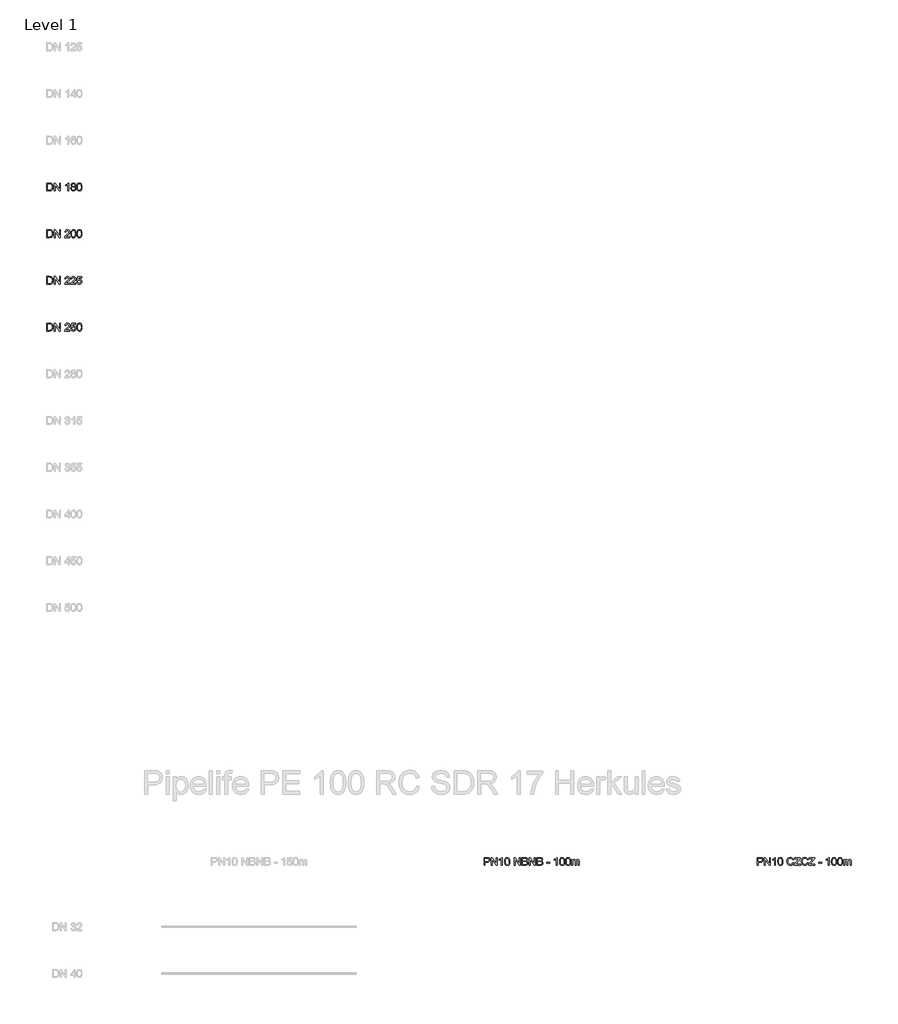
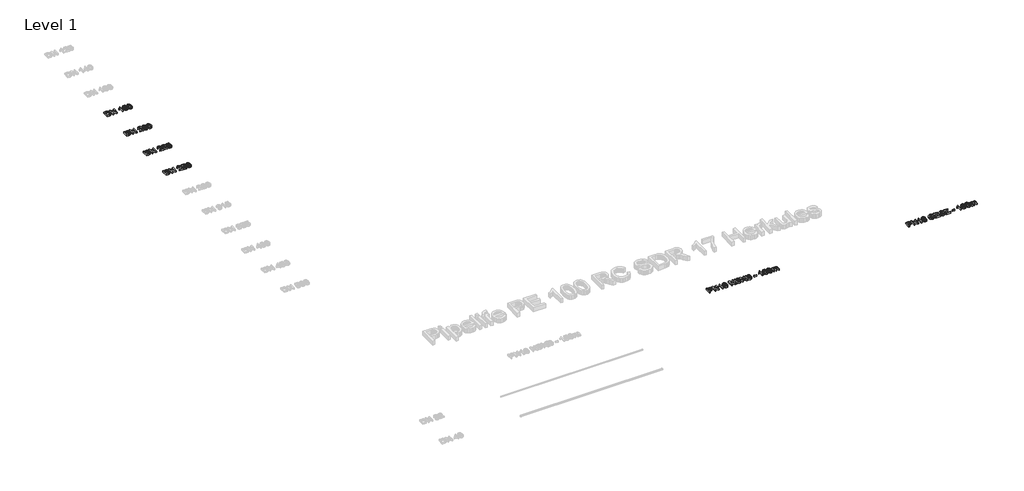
# One storey, part 7 of 17: 6 proxies.
"""IFC4 building model written with IfcOpenShell, lengths in millimetres."""

from ifc_helpers import new_model, si_unit, origin, origin_with_axes, place, context, project, spatial, polyline, outline, extrude, element, save

model = new_model("IFC4")

# Units and contexts
model_context = context("Model", 3, world=origin())
ifc_project = project(units=[si_unit("LENGTHUNIT", "METRE", prefix="MILLI")], contexts=[model_context])

# Site, building, storey
site = spatial("IfcSite", under=ifc_project)
building = spatial("IfcBuilding", under=site)
storey = spatial("IfcBuildingStorey", under=building, Name="Level 1", Elevation=0.0)

# Proxies
placement = place(None, origin())
element("IfcBuildingElementProxy", 1, Name="200mm Arial", ObjectType="200mm Arial", at=placement, inside=storey, context=model_context, shape_type="SweptSolid", body=[
    extrude(outline(polyline([(-19491.3116028, -12713.949573), (-19491.3116028, -12513.0369527), (-19422.0026349, -12513.0369527), (-19386.1464031, -12515.9309577), (-19370.1312736, -12521.5105013), (-19356.6177416, -12530.302881), (-19342.724065, -12545.606772), (-19332.8280393, -12564.6385338), (-19326.9051392, -12587.0302846), (-19324.9308391, -12612.4141423), (-19330.2773908, -12652.9547382), (-19344.0116519, -12682.2136195), (-19362.3567008, -12700.436041), (-19386.3671323, -12710.5160077), (-19418.6671715, -12713.949573), (-19491.3116028, -12713.949573)]), holes=[polyline([(-19466.1975253, -12688.8354954), (-19421.7573803, -12688.8354954), (-19389.4328156, -12685.2057264), (-19370.7934612, -12674.9540815), (-19362.0685265, -12664.0831685), (-19355.5140957, -12650.0116822), (-19351.4122114, -12632.6783089), (-19350.0449167, -12612.0217348), (-19352.7243239, -12584.6513144), (-19360.7625455, -12564.4423301), (-19372.6390025, -12550.5609162), (-19386.8331162, -12542.1732067), (-19422.4440933, -12538.1510302), (-19466.1975253, -12538.1510302), (-19466.1975253, -12688.8354954)])]), origin_with_axes(), (0.0, 0.0, 1.0), 50.0),
    extrude(outline(polyline([(-19290.3989825, -12713.949573), (-19290.3989825, -12513.0369527), (-19263.5190714, -12513.0369527), (-19158.5500754, -12672.2072292), (-19158.5500754, -12513.0369527), (-19133.4359979, -12513.0369527), (-19133.4359979, -12713.949573), (-19160.315909, -12713.949573), (-19265.284905, -12554.7302454), (-19265.284905, -12713.949573), (-19290.3989825, -12713.949573)])), origin_with_axes(), (0.0, 0.0, 1.0), 50.0),
    extrude(outline(polyline([(-18891.7130016, -12688.8354954), (-18891.7130016, -12713.949573), (-19023.5619087, -12713.949573), (-19020.8641074, -12696.6345937), (-19005.6092673, -12669.9754118), (-18974.1676195, -12640.8636832), (-18930.806595, -12599.0232377), (-18922.6764029, -12584.6022634), (-18919.9663388, -12570.5736967), (-18922.5231187, -12557.9982638), (-18930.1934583, -12547.5442838), (-18941.9840762, -12540.4993436), (-18956.9016912, -12538.1510302), (-18972.5673328, -12540.4441613), (-18984.7380955, -12547.3235546), (-18992.5923761, -12558.2496499), (-18995.3085714, -12572.6828868), (-19020.422649, -12569.5436271), (-19014.334202, -12545.2511527), (-19001.1701579, -12527.5069778), (-18981.6172299, -12516.6544589), (-18956.3621309, -12513.0369527), (-18930.9230909, -12517.0591291), (-18911.4069511, -12529.1256586), (-18898.9909337, -12547.1518763), (-18894.8522613, -12569.0531178), (-18899.3158962, -12592.8673456), (-18914.1538033, -12617.4909138), (-18950.1326624, -12651.9001431), (-18979.0236618, -12676.0577275), (-18990.3544272, -12688.8354954), (-18891.7130016, -12688.8354954)])), origin_with_axes(), (0.0, 0.0, 1.0), 50.0),
    extrude(outline(polyline([(-18866.5989241, -12615.1119436), (-18864.7533827, -12582.9529258), (-18859.2167587, -12557.3054194), (-18850.0442343, -12537.7770168), (-18837.2909918, -12523.9753106), (-18820.8650607, -12515.7715422), (-18800.6744705, -12513.0369527), (-18785.1989013, -12514.6556334), (-18771.3420128, -12519.5116758), (-18759.7537299, -12527.4150073), (-18751.0839776, -12538.1755557), (-18739.3117537, -12567.9004209), (-18734.750017, -12615.1119436), (-18736.5771642, -12647.0870203), (-18742.058606, -12672.6732131), (-18751.1759481, -12692.2200098), (-18763.9107965, -12706.0768983), (-18780.3735158, -12714.335849), (-18800.6744705, -12717.0888326), (-18826.7695667, -12712.3063667), (-18846.5861435, -12697.9589689), (-18855.341735, -12682.8298218), (-18861.5957289, -12663.9789353), (-18866.5989241, -12615.1119436)]), holes=[polyline([(-18841.4848465, -12615.0628927), (-18838.5417906, -12654.5672876), (-18829.7126227, -12677.4311536), (-18816.5669727, -12688.3388547), (-18800.6744705, -12691.9747551), (-18784.7819683, -12688.326592), (-18771.6363184, -12677.3821026), (-18762.8071505, -12654.5059739), (-18759.8640945, -12615.0628927), (-18762.7090486, -12576.4475459), (-18771.2439109, -12553.4058703), (-18784.3650354, -12541.9647402), (-18800.9687761, -12538.1510302), (-18816.6896001, -12541.5110191), (-18829.3202152, -12551.5909857), (-18838.4436887, -12576.0674012), (-18841.4848465, -12615.0628927)])]), origin_with_axes(), (0.0, 0.0, 1.0), 50.0),
    extrude(outline(polyline([(-18712.7751992, -12615.1119436), (-18710.9296578, -12582.9529258), (-18705.3930338, -12557.3054194), (-18696.2205094, -12537.7770168), (-18683.4672669, -12523.9753106), (-18667.0413358, -12515.7715422), (-18646.8507456, -12513.0369527), (-18631.3751764, -12514.6556334), (-18617.5182879, -12519.5116758), (-18605.930005, -12527.4150073), (-18597.2602527, -12538.1755557), (-18585.4880288, -12567.9004209), (-18580.9262921, -12615.1119436), (-18582.7534393, -12647.0870203), (-18588.2348811, -12672.6732131), (-18597.3522232, -12692.2200098), (-18610.0870716, -12706.0768983), (-18626.5497909, -12714.335849), (-18646.8507456, -12717.0888326), (-18672.9458418, -12712.3063667), (-18692.7624186, -12697.9589689), (-18701.5180101, -12682.8298218), (-18707.772004, -12663.9789353), (-18712.7751992, -12615.1119436)]), holes=[polyline([(-18687.6611216, -12615.0628927), (-18684.7180657, -12654.5672876), (-18675.8888978, -12677.4311536), (-18662.7432478, -12688.3388547), (-18646.8507456, -12691.9747551), (-18630.9582434, -12688.326592), (-18617.8125935, -12677.3821026), (-18608.9834256, -12654.5059739), (-18606.0403696, -12615.0628927), (-18608.8853237, -12576.4475459), (-18617.420186, -12553.4058703), (-18630.5413105, -12541.9647402), (-18647.1450512, -12538.1510302), (-18662.8658751, -12541.5110191), (-18675.4964903, -12551.5909857), (-18684.6199638, -12576.0674012), (-18687.6611216, -12615.0628927)])]), origin_with_axes(), (0.0, 0.0, 1.0), 50.0),
])
element("IfcBuildingElementProxy", 2, Name="200mm Arial", ObjectType="200mm Arial", at=placement, inside=storey, context=model_context, shape_type="SweptSolid", body=[
    extrude(outline(polyline([(-19491.3116028, -15113.949573), (-19491.3116028, -14913.0369527), (-19422.0026349, -14913.0369527), (-19386.1464031, -14915.9309577), (-19370.1312736, -14921.5105013), (-19356.6177416, -14930.302881), (-19342.724065, -14945.606772), (-19332.8280393, -14964.6385338), (-19326.9051392, -14987.0302846), (-19324.9308391, -15012.4141423), (-19330.2773908, -15052.9547382), (-19344.0116519, -15082.2136195), (-19362.3567008, -15100.436041), (-19386.3671323, -15110.5160077), (-19418.6671715, -15113.949573), (-19491.3116028, -15113.949573)]), holes=[polyline([(-19466.1975253, -15088.8354954), (-19421.7573803, -15088.8354954), (-19389.4328156, -15085.2057264), (-19370.7934612, -15074.9540815), (-19362.0685265, -15064.0831685), (-19355.5140957, -15050.0116822), (-19351.4122114, -15032.6783089), (-19350.0449167, -15012.0217348), (-19352.7243239, -14984.6513144), (-19360.7625455, -14964.4423301), (-19372.6390025, -14950.5609162), (-19386.8331162, -14942.1732067), (-19422.4440933, -14938.1510302), (-19466.1975253, -14938.1510302), (-19466.1975253, -15088.8354954)])]), origin_with_axes(), (0.0, 0.0, 1.0), 50.0),
    extrude(outline(polyline([(-19290.3989825, -15113.949573), (-19290.3989825, -14913.0369527), (-19263.5190714, -14913.0369527), (-19158.5500754, -15072.2072292), (-19158.5500754, -14913.0369527), (-19133.4359979, -14913.0369527), (-19133.4359979, -15113.949573), (-19160.315909, -15113.949573), (-19265.284905, -14954.7302454), (-19265.284905, -15113.949573), (-19290.3989825, -15113.949573)])), origin_with_axes(), (0.0, 0.0, 1.0), 50.0),
    extrude(outline(polyline([(-18891.7130016, -15088.8354954), (-18891.7130016, -15113.949573), (-19023.5619087, -15113.949573), (-19020.8641074, -15096.6345937), (-19005.6092673, -15069.9754118), (-18974.1676195, -15040.8636832), (-18930.806595, -14999.0232377), (-18922.6764029, -14984.6022634), (-18919.9663388, -14970.5736967), (-18922.5231187, -14957.9982638), (-18930.1934583, -14947.5442838), (-18941.9840762, -14940.4993436), (-18956.9016912, -14938.1510302), (-18972.5673328, -14940.4441613), (-18984.7380955, -14947.3235546), (-18992.5923761, -14958.2496499), (-18995.3085714, -14972.6828868), (-19020.422649, -14969.5436271), (-19014.334202, -14945.2511527), (-19001.1701579, -14927.5069778), (-18981.6172299, -14916.6544589), (-18956.3621309, -14913.0369527), (-18930.9230909, -14917.0591291), (-18911.4069511, -14929.1256586), (-18898.9909337, -14947.1518763), (-18894.8522613, -14969.0531178), (-18899.3158962, -14992.8673456), (-18914.1538033, -15017.4909138), (-18950.1326624, -15051.9001431), (-18979.0236618, -15076.0577275), (-18990.3544272, -15088.8354954), (-18891.7130016, -15088.8354954)])), origin_with_axes(), (0.0, 0.0, 1.0), 50.0),
    extrude(outline(polyline([(-18866.5989241, -15060.5821582), (-18841.4848465, -15057.4428985), (-18836.8740589, -15072.5199289), (-18828.8297059, -15083.3172655), (-18817.3885758, -15089.8103827), (-18802.5874569, -15091.9747551), (-18784.5857646, -15088.9642541), (-18771.0967581, -15079.9327511), (-18762.6722604, -15065.9225785), (-18759.8640945, -15047.9760685), (-18762.4944508, -15031.0780222), (-18770.3855196, -15018.1531014), (-18783.5986146, -15009.9493329), (-18802.1950494, -15007.2147434), (-18824.2434437, -15011.5802764), (-18838.3455868, -15022.9110419), (-18863.4596644, -15019.7717822), (-18841.4848465, -14916.1762123), (-18744.1677961, -14916.1762123), (-18744.1677961, -14941.2902899), (-18821.1777604, -14941.2902899), (-18831.9199147, -14996.619742), (-18813.979536, -14985.7304349), (-18795.1807661, -14982.1006659), (-18771.7160261, -14986.601089), (-18752.2366745, -15000.1023582), (-18739.1216814, -15020.6792244), (-18734.750017, -15046.4064386), (-18738.6863543, -15071.5205162), (-18750.4953664, -15093.0048247), (-18760.9309523, -15103.5415782), (-18773.1078464, -15111.0678307), (-18787.0260485, -15115.5835821), (-18802.6855588, -15117.0888326), (-18827.3520466, -15113.2199403), (-18847.0030765, -15101.6132634), (-18860.4736888, -15083.6177025), (-18866.5989241, -15060.5821582)])), origin_with_axes(), (0.0, 0.0, 1.0), 50.0),
    extrude(outline(polyline([(-18712.7751992, -15015.1119436), (-18710.9296578, -14982.9529258), (-18705.3930338, -14957.3054194), (-18696.2205094, -14937.7770168), (-18683.4672669, -14923.9753106), (-18667.0413358, -14915.7715422), (-18646.8507456, -14913.0369527), (-18631.3751764, -14914.6556334), (-18617.5182879, -14919.5116758), (-18605.930005, -14927.4150073), (-18597.2602527, -14938.1755557), (-18585.4880288, -14967.9004209), (-18580.9262921, -15015.1119436), (-18582.7534393, -15047.0870203), (-18588.2348811, -15072.6732131), (-18597.3522232, -15092.2200098), (-18610.0870716, -15106.0768983), (-18626.5497909, -15114.335849), (-18646.8507456, -15117.0888326), (-18672.9458418, -15112.3063667), (-18692.7624186, -15097.9589689), (-18701.5180101, -15082.8298218), (-18707.772004, -15063.9789353), (-18712.7751992, -15015.1119436)]), holes=[polyline([(-18687.6611216, -15015.0628927), (-18684.7180657, -15054.5672876), (-18675.8888978, -15077.4311536), (-18662.7432478, -15088.3388547), (-18646.8507456, -15091.9747551), (-18630.9582434, -15088.326592), (-18617.8125935, -15077.3821026), (-18608.9834256, -15054.5059739), (-18606.0403696, -15015.0628927), (-18608.8853237, -14976.4475459), (-18617.420186, -14953.4058703), (-18630.5413105, -14941.9647402), (-18647.1450512, -14938.1510302), (-18662.8658751, -14941.5110191), (-18675.4964903, -14951.5909857), (-18684.6199638, -14976.0674012), (-18687.6611216, -15015.0628927)])]), origin_with_axes(), (0.0, 0.0, 1.0), 50.0),
])
element("IfcBuildingElementProxy", 3, Name="200mm Arial", ObjectType="200mm Arial", at=placement, inside=storey, context=model_context, shape_type="SweptSolid", body=[
    extrude(outline(polyline([(-19491.3116028, -11513.949573), (-19491.3116028, -11313.0369527), (-19422.0026349, -11313.0369527), (-19386.1464031, -11315.9309577), (-19370.1312736, -11321.5105013), (-19356.6177416, -11330.302881), (-19342.724065, -11345.606772), (-19332.8280393, -11364.6385338), (-19326.9051392, -11387.0302846), (-19324.9308391, -11412.4141423), (-19330.2773908, -11452.9547382), (-19344.0116519, -11482.2136195), (-19362.3567008, -11500.436041), (-19386.3671323, -11510.5160077), (-19418.6671715, -11513.949573), (-19491.3116028, -11513.949573)]), holes=[polyline([(-19466.1975253, -11488.8354954), (-19421.7573803, -11488.8354954), (-19389.4328156, -11485.2057264), (-19370.7934612, -11474.9540815), (-19362.0685265, -11464.0831685), (-19355.5140957, -11450.0116822), (-19351.4122114, -11432.6783089), (-19350.0449167, -11412.0217348), (-19352.7243239, -11384.6513144), (-19360.7625455, -11364.4423301), (-19372.6390025, -11350.5609162), (-19386.8331162, -11342.1732067), (-19422.4440933, -11338.1510302), (-19466.1975253, -11338.1510302), (-19466.1975253, -11488.8354954)])]), origin_with_axes(), (0.0, 0.0, 1.0), 50.0),
    extrude(outline(polyline([(-19290.3989825, -11513.949573), (-19290.3989825, -11313.0369527), (-19263.5190714, -11313.0369527), (-19158.5500754, -11472.2072292), (-19158.5500754, -11313.0369527), (-19133.4359979, -11313.0369527), (-19133.4359979, -11513.949573), (-19160.315909, -11513.949573), (-19265.284905, -11354.7302454), (-19265.284905, -11513.949573), (-19290.3989825, -11513.949573)])), origin_with_axes(), (0.0, 0.0, 1.0), 50.0),
    extrude(outline(polyline([(-18926.2448582, -11513.949573), (-18951.3589358, -11513.949573), (-18951.3589358, -11357.3789958), (-18975.1486381, -11374.3260931), (-19001.5870908, -11387.0057592), (-19001.5870908, -11363.2651077), (-18964.7743658, -11339.769711), (-18951.3037535, -11326.1948653), (-18942.431666, -11313.0369527), (-18926.2448582, -11313.0369527), (-18926.2448582, -11513.949573)])), origin_with_axes(), (0.0, 0.0, 1.0), 50.0),
    extrude(outline(polyline([(-18830.0069283, -11403.2906688), (-18843.4530152, -11396.6687929), (-18852.8891884, -11387.6924722), (-18858.4626006, -11376.5456478), (-18860.3204047, -11363.4122605), (-18856.2737027, -11343.7796247), (-18844.1335969, -11327.5560287), (-18825.2612505, -11316.6667217), (-18801.0178271, -11313.0369527), (-18776.6272508, -11316.7525608), (-18757.5096498, -11327.8993853), (-18745.1488147, -11344.3804986), (-18741.0285364, -11364.0989736), (-18742.861815, -11376.8092965), (-18748.3616508, -11387.7660486), (-18757.5893575, -11396.687187), (-18770.6062488, -11403.2906688), (-18755.1490736, -11411.255314), (-18743.8980159, -11422.9846183), (-18737.0370167, -11437.9144959), (-18734.750017, -11455.4808612), (-18739.2872283, -11479.4912927), (-18752.8988621, -11499.332395), (-18773.9171868, -11512.6497232), (-18800.6744705, -11517.0888326), (-18827.4317543, -11512.6313291), (-18848.450079, -11499.2588186), (-18862.0617128, -11479.227644), (-18866.5989241, -11454.7941481), (-18864.2199538, -11436.5472012), (-18857.0830431, -11421.5376158), (-18845.5560739, -11410.2804267), (-18830.0069283, -11403.2906688)]), holes=[polyline([(-18835.2063271, -11364.1480245), (-18832.9806411, -11375.110908), (-18826.3035829, -11383.8664995), (-18815.3713562, -11389.6054586), (-18800.3801649, -11391.518445), (-18785.7384615, -11389.6177213), (-18774.9717818, -11383.9155504), (-18768.3499059, -11375.4542645), (-18766.1426139, -11365.276196), (-18768.4234823, -11354.7118513), (-18775.2660874, -11345.974654), (-18786.1799199, -11340.1069361), (-18800.6744705, -11338.1510302), (-18815.2609916, -11340.0640166), (-18826.1564301, -11345.8029757), (-18832.9438529, -11354.2152106), (-18835.2063271, -11364.1480245)]), polyline([(-18841.4848465, -11453.9112313), (-18837.2909918, -11472.8203659), (-18831.4845876, -11480.9321639), (-18822.4530846, -11486.97156), (-18800.4782668, -11491.9747551), (-18783.3840168, -11489.3443988), (-18770.5571979, -11481.45333), (-18762.5373704, -11469.5032966), (-18759.8640945, -11454.6960463), (-18762.6232095, -11439.6374099), (-18770.9005544, -11427.4237277), (-18784.0216789, -11419.3303238), (-18801.3121327, -11416.6325225), (-18818.1672594, -11419.2935356), (-18830.8653196, -11427.2765749), (-18838.8299648, -11439.2572652), (-18841.4848465, -11453.9112313)])]), origin_with_axes(), (0.0, 0.0, 1.0), 50.0),
    extrude(outline(polyline([(-18712.7751992, -11415.1119436), (-18710.9296578, -11382.9529258), (-18705.3930338, -11357.3054194), (-18696.2205094, -11337.7770168), (-18683.4672669, -11323.9753106), (-18667.0413358, -11315.7715422), (-18646.8507456, -11313.0369527), (-18631.3751764, -11314.6556334), (-18617.5182879, -11319.5116758), (-18605.930005, -11327.4150073), (-18597.2602527, -11338.1755557), (-18585.4880288, -11367.9004209), (-18580.9262921, -11415.1119436), (-18582.7534393, -11447.0870203), (-18588.2348811, -11472.6732131), (-18597.3522232, -11492.2200098), (-18610.0870716, -11506.0768983), (-18626.5497909, -11514.335849), (-18646.8507456, -11517.0888326), (-18672.9458418, -11512.3063667), (-18692.7624186, -11497.9589689), (-18701.5180101, -11482.8298218), (-18707.772004, -11463.9789353), (-18712.7751992, -11415.1119436)]), holes=[polyline([(-18687.6611216, -11415.0628927), (-18684.7180657, -11454.5672876), (-18675.8888978, -11477.4311536), (-18662.7432478, -11488.3388547), (-18646.8507456, -11491.9747551), (-18630.9582434, -11488.326592), (-18617.8125935, -11477.3821026), (-18608.9834256, -11454.5059739), (-18606.0403696, -11415.0628927), (-18608.8853237, -11376.4475459), (-18617.420186, -11353.4058703), (-18630.5413105, -11341.9647402), (-18647.1450512, -11338.1510302), (-18662.8658751, -11341.5110191), (-18675.4964903, -11351.5909857), (-18684.6199638, -11376.0674012), (-18687.6611216, -11415.0628927)])]), origin_with_axes(), (0.0, 0.0, 1.0), 50.0),
])
element("IfcBuildingElementProxy", 4, Name="200mm Arial", ObjectType="200mm Arial", at=placement, inside=storey, context=model_context, shape_type="SweptSolid", body=[
    extrude(outline(polyline([(-19491.3116028, -13913.949573), (-19491.3116028, -13713.0369527), (-19422.0026349, -13713.0369527), (-19386.1464031, -13715.9309577), (-19370.1312736, -13721.5105013), (-19356.6177416, -13730.302881), (-19342.724065, -13745.606772), (-19332.8280393, -13764.6385338), (-19326.9051392, -13787.0302846), (-19324.9308391, -13812.4141423), (-19330.2773908, -13852.9547382), (-19344.0116519, -13882.2136195), (-19362.3567008, -13900.436041), (-19386.3671323, -13910.5160077), (-19418.6671715, -13913.949573), (-19491.3116028, -13913.949573)]), holes=[polyline([(-19466.1975253, -13888.8354954), (-19421.7573803, -13888.8354954), (-19389.4328156, -13885.2057264), (-19370.7934612, -13874.9540815), (-19362.0685265, -13864.0831685), (-19355.5140957, -13850.0116822), (-19351.4122114, -13832.6783089), (-19350.0449167, -13812.0217348), (-19352.7243239, -13784.6513144), (-19360.7625455, -13764.4423301), (-19372.6390025, -13750.5609162), (-19386.8331162, -13742.1732067), (-19422.4440933, -13738.1510302), (-19466.1975253, -13738.1510302), (-19466.1975253, -13888.8354954)])]), origin_with_axes(), (0.0, 0.0, 1.0), 50.0),
    extrude(outline(polyline([(-19290.3989825, -13913.949573), (-19290.3989825, -13713.0369527), (-19263.5190714, -13713.0369527), (-19158.5500754, -13872.2072292), (-19158.5500754, -13713.0369527), (-19133.4359979, -13713.0369527), (-19133.4359979, -13913.949573), (-19160.315909, -13913.949573), (-19265.284905, -13754.7302454), (-19265.284905, -13913.949573), (-19290.3989825, -13913.949573)])), origin_with_axes(), (0.0, 0.0, 1.0), 50.0),
    extrude(outline(polyline([(-18891.7130016, -13888.8354954), (-18891.7130016, -13913.949573), (-19023.5619087, -13913.949573), (-19020.8641074, -13896.6345937), (-19005.6092673, -13869.9754118), (-18974.1676195, -13840.8636832), (-18930.806595, -13799.0232377), (-18922.6764029, -13784.6022634), (-18919.9663388, -13770.5736967), (-18922.5231187, -13757.9982638), (-18930.1934583, -13747.5442838), (-18941.9840762, -13740.4993436), (-18956.9016912, -13738.1510302), (-18972.5673328, -13740.4441613), (-18984.7380955, -13747.3235546), (-18992.5923761, -13758.2496499), (-18995.3085714, -13772.6828868), (-19020.422649, -13769.5436271), (-19014.334202, -13745.2511527), (-19001.1701579, -13727.5069778), (-18981.6172299, -13716.6544589), (-18956.3621309, -13713.0369527), (-18930.9230909, -13717.0591291), (-18911.4069511, -13729.1256586), (-18898.9909337, -13747.1518763), (-18894.8522613, -13769.0531178), (-18899.3158962, -13792.8673456), (-18914.1538033, -13817.4909138), (-18950.1326624, -13851.9001431), (-18979.0236618, -13876.0577275), (-18990.3544272, -13888.8354954), (-18891.7130016, -13888.8354954)])), origin_with_axes(), (0.0, 0.0, 1.0), 50.0),
    extrude(outline(polyline([(-18737.8892767, -13888.8354954), (-18737.8892767, -13913.949573), (-18869.7381838, -13913.949573), (-18867.0403825, -13896.6345937), (-18851.7855424, -13869.9754118), (-18820.3438945, -13840.8636832), (-18776.98287, -13799.0232377), (-18768.852678, -13784.6022634), (-18766.1426139, -13770.5736967), (-18768.6993938, -13757.9982638), (-18776.3697334, -13747.5442838), (-18788.1603513, -13740.4993436), (-18803.0779662, -13738.1510302), (-18818.7436079, -13740.4441613), (-18830.9143705, -13747.3235546), (-18838.7686511, -13758.2496499), (-18841.4848465, -13772.6828868), (-18866.5989241, -13769.5436271), (-18860.510477, -13745.2511527), (-18847.346433, -13727.5069778), (-18827.7935049, -13716.6544589), (-18802.538406, -13713.0369527), (-18777.099366, -13717.0591291), (-18757.5832262, -13729.1256586), (-18745.1672088, -13747.1518763), (-18741.0285364, -13769.0531178), (-18745.4921713, -13792.8673456), (-18760.3300784, -13817.4909138), (-18796.3089375, -13851.9001431), (-18825.1999369, -13876.0577275), (-18836.5307023, -13888.8354954), (-18737.8892767, -13888.8354954)])), origin_with_axes(), (0.0, 0.0, 1.0), 50.0),
    extrude(outline(polyline([(-18712.7751992, -13860.5821582), (-18687.6611216, -13857.4428985), (-18683.0503339, -13872.5199289), (-18675.005981, -13883.3172655), (-18663.5648509, -13889.8103827), (-18648.763732, -13891.9747551), (-18630.7620397, -13888.9642541), (-18617.2730332, -13879.9327511), (-18608.8485355, -13865.9225785), (-18606.0403696, -13847.9760685), (-18608.6707259, -13831.0780222), (-18616.5617947, -13818.1531014), (-18629.7748897, -13809.9493329), (-18648.3713245, -13807.2147434), (-18670.4197188, -13811.5802764), (-18684.5218619, -13822.9110419), (-18709.6359395, -13819.7717822), (-18687.6611216, -13716.1762123), (-18590.3440712, -13716.1762123), (-18590.3440712, -13741.2902899), (-18667.3540355, -13741.2902899), (-18678.0961897, -13796.619742), (-18660.1558111, -13785.7304349), (-18641.3570412, -13782.1006659), (-18617.8923012, -13786.601089), (-18598.4129496, -13800.1023582), (-18585.2979565, -13820.6792244), (-18580.9262921, -13846.4064386), (-18584.8626294, -13871.5205162), (-18596.6716415, -13893.0048247), (-18607.1072274, -13903.5415782), (-18619.2841214, -13911.0678307), (-18633.2023236, -13915.5835821), (-18648.8618339, -13917.0888326), (-18673.5283216, -13913.2199403), (-18693.1793515, -13901.6132634), (-18706.6499639, -13883.6177025), (-18712.7751992, -13860.5821582)])), origin_with_axes(), (0.0, 0.0, 1.0), 50.0),
])
element("IfcBuildingElementProxy", 5, Name="200mm Arial", ObjectType="200mm Arial", at=placement, inside=storey, context=model_context, shape_type="SweptSolid", body=[
    extrude(outline(polyline([(-1239.7124769, -28838.0508707), (-1239.7124769, -28637.1382504), (-1165.253161, -28637.1382504), (-1135.2339902, -28639.0512367), (-1110.8311512, -28648.4444903), (-1101.9590638, -28656.7708862), (-1095.0122254, -28667.8686597), (-1090.5240651, -28680.9591274), (-1089.0280116, -28695.2636056), (-1093.0685822, -28718.9429434), (-1105.190294, -28738.673681), (-1114.8977801, -28746.4421225), (-1127.8579562, -28751.9910093), (-1163.5363784, -28756.4301187), (-1214.5983993, -28756.4301187), (-1214.5983993, -28838.0508707), (-1239.7124769, -28838.0508707)]), holes=[polyline([(-1214.5983993, -28731.3160411), (-1162.0648504, -28731.3160411), (-1139.795727, -28729.0106473), (-1125.0804472, -28722.0944658), (-1116.8766787, -28710.9966923), (-1114.1420892, -28696.1465224), (-1115.7546386, -28684.8648079), (-1120.5922868, -28675.3489269), (-1128.05416, -28668.1874908), (-1137.5393841, -28663.9691105), (-1162.6534616, -28662.2523279), (-1214.5983993, -28662.2523279), (-1214.5983993, -28731.3160411)])]), origin_with_axes(), (0.0, 0.0, 1.0), 50.0),
    extrude(outline(polyline([(-1054.496155, -28838.0508707), (-1054.496155, -28637.1382504), (-1027.6162439, -28637.1382504), (-922.6472479, -28796.3085269), (-922.6472479, -28637.1382504), (-897.5331704, -28637.1382504), (-897.5331704, -28838.0508707), (-924.4130815, -28838.0508707), (-1029.3820775, -28678.8315431), (-1029.3820775, -28838.0508707), (-1054.496155, -28838.0508707)])), origin_with_axes(), (0.0, 0.0, 1.0), 50.0),
    extrude(outline(polyline([(-768.823523, -28838.0508707), (-793.9376006, -28838.0508707), (-793.9376006, -28681.4802935), (-817.7273029, -28698.4273908), (-844.1657556, -28711.1070569), (-844.1657556, -28687.3664054), (-807.3530307, -28663.8710087), (-793.8824183, -28650.2961631), (-785.0103308, -28637.1382504), (-768.823523, -28637.1382504), (-768.823523, -28838.0508707)])), origin_with_axes(), (0.0, 0.0, 1.0), 50.0),
    extrude(outline(polyline([(-709.1775889, -28739.2132413), (-707.3320475, -28707.0542235), (-701.7954235, -28681.4067171), (-692.6228991, -28661.8783145), (-679.8696566, -28648.0766083), (-663.4437255, -28639.8728399), (-643.2531353, -28637.1382504), (-627.7775661, -28638.7569311), (-613.9206776, -28643.6129735), (-602.3323947, -28651.516305), (-593.6626424, -28662.2768534), (-581.8904185, -28692.0017186), (-577.3286818, -28739.2132413), (-579.1558291, -28771.188318), (-584.6372708, -28796.7745108), (-593.7546129, -28816.3213075), (-606.4894613, -28830.178196), (-622.9521806, -28838.4371468), (-643.2531353, -28841.1901304), (-669.3482315, -28836.4076644), (-689.1648083, -28822.0602666), (-697.9203998, -28806.9311195), (-704.1743937, -28788.080233), (-709.1775889, -28739.2132413)]), holes=[polyline([(-684.0635113, -28739.1641904), (-681.1204554, -28778.6685853), (-672.2912875, -28801.5324513), (-659.1456375, -28812.4401524), (-643.2531353, -28816.0760528), (-627.3606332, -28812.4278897), (-614.2149832, -28801.4834003), (-605.3858153, -28778.6072716), (-602.4427593, -28739.1641904), (-605.2877134, -28700.5488436), (-613.8225757, -28677.507168), (-626.9437002, -28666.0660379), (-643.5474409, -28662.2523279), (-659.2682649, -28665.6123168), (-671.89888, -28675.6922835), (-681.0223535, -28700.1686989), (-684.0635113, -28739.1641904)])]), origin_with_axes(), (0.0, 0.0, 1.0), 50.0),
    extrude(outline(polyline([(-326.1879064, -28766.6327127), (-301.0738289, -28773.1074358), (-312.6621117, -28802.3724485), (-330.847745, -28823.7525238), (-354.7355493, -28836.8307287), (-383.4303449, -28841.1901304), (-412.5604675, -28837.8914551), (-435.6941137, -28827.9954295), (-453.4260258, -28811.8454099), (-466.3509466, -28789.7847529), (-474.2420154, -28763.8490722), (-476.8723717, -28736.0739816), (-473.8986589, -28706.778312), (-464.9775205, -28681.4802935), (-450.5749404, -28660.983135), (-431.1569024, -28646.0900456), (-408.1274895, -28637.0217544), (-382.8907846, -28633.9989907), (-355.3548173, -28637.9108025), (-332.5890532, -28649.6462382), (-315.3047307, -28668.4817963), (-304.2130886, -28693.6939758), (-329.3271661, -28699.6781895), (-338.0337067, -28681.3637975), (-349.9285579, -28668.8006274), (-365.1588725, -28661.534958), (-383.8718033, -28659.1130682), (-405.4419509, -28661.7986068), (-423.1616004, -28669.8552225), (-436.6076873, -28682.4367867), (-445.3571474, -28698.6971709), (-450.1580074, -28717.0790079), (-451.7582941, -28736.0249307), (-449.8637018, -28759.2260218), (-444.179925, -28779.2878533), (-434.4923658, -28795.4440043), (-420.5864264, -28806.9280539), (-403.9152406, -28813.7890531), (-385.9319425, -28816.0760528), (-364.9688001, -28812.9613186), (-347.5005367, -28803.6171159), (-334.3119672, -28788.1415466), (-326.1879064, -28766.6327127)])), origin_with_axes(), (0.0, 0.0, 1.0), 50.0),
    extrude(outline(polyline([(-282.2382707, -28838.0508707), (-282.2382707, -28812.0048254), (-179.4765668, -28686.189183), (-159.9542955, -28662.2523279), (-269.681232, -28662.2523279), (-269.681232, -28637.1382504), (-128.4145458, -28637.1382504), (-128.4145458, -28662.2523279), (-240.8883345, -28799.938296), (-251.4833359, -28812.9367931), (-125.2752861, -28812.9367931), (-125.2752861, -28838.0508707), (-282.2382707, -28838.0508707)])), origin_with_axes(), (0.0, 0.0, 1.0), 50.0),
    extrude(outline(polyline([(44.2447372, -28766.6327127), (69.3588148, -28773.1074358), (57.7705319, -28802.3724485), (39.5848986, -28823.7525238), (15.6970944, -28836.8307287), (-12.9977012, -28841.1901304), (-42.1278239, -28837.8914551), (-65.26147, -28827.9954295), (-82.9933822, -28811.8454099), (-95.9183029, -28789.7847529), (-103.8093717, -28763.8490722), (-106.439728, -28736.0739816), (-103.4660152, -28706.778312), (-94.5448768, -28681.4802935), (-80.1422967, -28660.983135), (-60.7242587, -28646.0900456), (-37.6948458, -28637.0217544), (-12.4581409, -28633.9989907), (15.0778264, -28637.9108025), (37.8435905, -28649.6462382), (55.1279129, -28668.4817963), (66.2195551, -28693.6939758), (41.1054776, -28699.6781895), (32.398937, -28681.3637975), (20.5040858, -28668.8006274), (5.2737712, -28661.534958), (-13.4391596, -28659.1130682), (-35.0093073, -28661.7986068), (-52.7289567, -28669.8552225), (-66.1750436, -28682.4367867), (-74.9245037, -28698.6971709), (-79.7253638, -28717.0790079), (-81.3256504, -28736.0249307), (-79.4310582, -28759.2260218), (-73.7472813, -28779.2878533), (-64.0597221, -28795.4440043), (-50.1537827, -28806.9280539), (-33.482597, -28813.7890531), (-15.4992988, -28816.0760528), (5.4638436, -28812.9613186), (22.932107, -28803.6171159), (36.1206765, -28788.1415466), (44.2447372, -28766.6327127)])), origin_with_axes(), (0.0, 0.0, 1.0), 50.0),
    extrude(outline(polyline([(88.1943729, -28838.0508707), (88.1943729, -28812.0048254), (190.9560769, -28686.189183), (210.4783481, -28662.2523279), (100.7514117, -28662.2523279), (100.7514117, -28637.1382504), (242.0180978, -28637.1382504), (242.0180978, -28662.2523279), (129.5443092, -28799.938296), (118.9493077, -28812.9367931), (245.1573575, -28812.9367931), (245.1573575, -28838.0508707), (88.1943729, -28838.0508707)])), origin_with_axes(), (0.0, 0.0, 1.0), 50.0),
    extrude(outline(polyline([(336.1958886, -28778.4049365), (336.1958886, -28753.290859), (414.6773809, -28753.290859), (414.6773809, -28778.4049365), (336.1958886, -28778.4049365)])), origin_with_axes(), (0.0, 0.0, 1.0), 50.0),
    extrude(outline(polyline([(609.3114818, -28838.0508707), (584.1974043, -28838.0508707), (584.1974043, -28681.4802935), (560.4077019, -28698.4273908), (533.9692492, -28711.1070569), (533.9692492, -28687.3664054), (570.7819742, -28663.8710087), (584.2525866, -28650.2961631), (593.124674, -28637.1382504), (609.3114818, -28637.1382504), (609.3114818, -28838.0508707)])), origin_with_axes(), (0.0, 0.0, 1.0), 50.0),
    extrude(outline(polyline([(668.957416, -28739.2132413), (670.8029573, -28707.0542235), (676.3395814, -28681.4067171), (685.5121058, -28661.8783145), (698.2653483, -28648.0766083), (714.6912794, -28639.8728399), (734.8818695, -28637.1382504), (750.3574388, -28638.7569311), (764.2143273, -28643.6129735), (775.8026101, -28651.516305), (784.4723625, -28662.2768534), (796.2445863, -28692.0017186), (800.8063231, -28739.2132413), (798.9791758, -28771.188318), (793.4977341, -28796.7745108), (784.380392, -28816.3213075), (771.6455436, -28830.178196), (755.1828243, -28838.4371468), (734.8818695, -28841.1901304), (708.7867733, -28836.4076644), (688.9701965, -28822.0602666), (680.214605, -28806.9311195), (673.9606111, -28788.080233), (668.957416, -28739.2132413)]), holes=[polyline([(694.0714935, -28739.1641904), (697.0145495, -28778.6685853), (705.8437174, -28801.5324513), (718.9893673, -28812.4401524), (734.8818695, -28816.0760528), (750.7743717, -28812.4278897), (763.9200217, -28801.4834003), (772.7491896, -28778.6072716), (775.6922455, -28739.1641904), (772.8472914, -28700.5488436), (764.3124291, -28677.507168), (751.1913046, -28666.0660379), (734.5875639, -28662.2523279), (718.86674, -28665.6123168), (706.2361248, -28675.6922835), (697.1126513, -28700.1686989), (694.0714935, -28739.1641904)])]), origin_with_axes(), (0.0, 0.0, 1.0), 50.0),
    extrude(outline(polyline([(822.7811409, -28739.2132413), (824.6266822, -28707.0542235), (830.1633063, -28681.4067171), (839.3358307, -28661.8783145), (852.0890732, -28648.0766083), (868.5150043, -28639.8728399), (888.7055944, -28637.1382504), (904.1811637, -28638.7569311), (918.0380522, -28643.6129735), (929.626335, -28651.516305), (938.2960874, -28662.2768534), (950.0683112, -28692.0017186), (954.630048, -28739.2132413), (952.8029007, -28771.188318), (947.321459, -28796.7745108), (938.2041169, -28816.3213075), (925.4692685, -28830.178196), (909.0065492, -28838.4371468), (888.7055944, -28841.1901304), (862.6104982, -28836.4076644), (842.7939214, -28822.0602666), (834.03833, -28806.9311195), (827.784336, -28788.080233), (822.7811409, -28739.2132413)]), holes=[polyline([(847.8952184, -28739.1641904), (850.8382744, -28778.6685853), (859.6674423, -28801.5324513), (872.8130922, -28812.4401524), (888.7055944, -28816.0760528), (904.5980966, -28812.4278897), (917.7437466, -28801.4834003), (926.5729145, -28778.6072716), (929.5159704, -28739.1641904), (926.6710163, -28700.5488436), (918.1361541, -28677.507168), (905.0150296, -28666.0660379), (888.4112888, -28662.2523279), (872.6904649, -28665.6123168), (860.0598497, -28675.6922835), (850.9363763, -28700.1686989), (847.8952184, -28739.1641904)])]), origin_with_axes(), (0.0, 0.0, 1.0), 50.0),
    extrude(outline(polyline([(982.8833852, -28838.0508707), (982.8833852, -28690.5056651), (1007.9974627, -28690.5056651), (1007.9974627, -28714.7858768), (1015.5513064, -28703.632921), (1025.263391, -28694.8957236), (1036.802623, -28689.248735), (1049.8379083, -28687.3664054), (1063.8051614, -28689.2855232), (1075.0010368, -28695.0428764), (1083.3642208, -28704.2583204), (1088.8333998, -28716.5517104), (1097.9875301, -28703.7831395), (1108.4292474, -28694.6627317), (1120.1585517, -28689.190487), (1133.175443, -28687.3664054), (1152.0539207, -28690.4014319), (1166.0150424, -28699.5065113), (1174.6418752, -28714.9268982), (1177.5174861, -28736.9078475), (1177.5174861, -28838.0508707), (1152.4034086, -28838.0508707), (1152.4034086, -28747.6990526), (1150.0734893, -28726.7297789), (1141.6367289, -28716.4045576), (1127.289331, -28712.480483), (1113.6838286, -28714.9943433), (1102.5921864, -28722.5359242), (1095.2161524, -28735.6202605), (1092.7574744, -28754.762387), (1092.7574744, -28838.0508707), (1067.6433969, -28838.0508707), (1067.6433969, -28744.9031495), (1066.190263, -28730.7029045), (1061.8308614, -28720.5738869), (1054.1605218, -28714.5038339), (1042.774574, -28712.480483), (1024.1842705, -28717.8760856), (1016.8266306, -28724.5224869), (1011.8234355, -28733.6704859), (1007.9974627, -28763.6406058), (1007.9974627, -28838.0508707), (982.8833852, -28838.0508707)])), origin_with_axes(), (0.0, 0.0, 1.0), 50.0),
])
element("IfcBuildingElementProxy", 6, Name="200mm Arial", ObjectType="200mm Arial", at=placement, inside=storey, context=model_context, shape_type="SweptSolid", body=[
    extrude(outline(polyline([(-8255.4087753, -28838.0508707), (-8255.4087753, -28637.1382504), (-8180.9494595, -28637.1382504), (-8150.9302887, -28639.0512367), (-8126.5274497, -28648.4444903), (-8117.6553622, -28656.7708862), (-8110.7085239, -28667.8686597), (-8106.2203635, -28680.9591274), (-8104.7243101, -28695.2636056), (-8108.7648807, -28718.9429434), (-8120.8865924, -28738.673681), (-8130.5940786, -28746.4421225), (-8143.5542547, -28751.9910093), (-8179.2326769, -28756.4301187), (-8230.2946978, -28756.4301187), (-8230.2946978, -28838.0508707), (-8255.4087753, -28838.0508707)]), holes=[polyline([(-8230.2946978, -28731.3160411), (-8177.7611489, -28731.3160411), (-8155.4920254, -28729.0106473), (-8140.7767456, -28722.0944658), (-8132.5729771, -28710.9966923), (-8129.8383876, -28696.1465224), (-8131.450937, -28684.8648079), (-8136.2885853, -28675.3489269), (-8143.7504584, -28668.1874908), (-8153.2356825, -28663.9691105), (-8178.3497601, -28662.2523279), (-8230.2946978, -28662.2523279), (-8230.2946978, -28731.3160411)])]), origin_with_axes(), (0.0, 0.0, 1.0), 50.0),
    extrude(outline(polyline([(-8070.1924535, -28838.0508707), (-8070.1924535, -28637.1382504), (-8043.3125424, -28637.1382504), (-7938.3435464, -28796.3085269), (-7938.3435464, -28637.1382504), (-7913.2294689, -28637.1382504), (-7913.2294689, -28838.0508707), (-7940.10938, -28838.0508707), (-8045.0783759, -28678.8315431), (-8045.0783759, -28838.0508707), (-8070.1924535, -28838.0508707)])), origin_with_axes(), (0.0, 0.0, 1.0), 50.0),
    extrude(outline(polyline([(-7784.5198215, -28838.0508707), (-7809.633899, -28838.0508707), (-7809.633899, -28681.4802935), (-7833.4236014, -28698.4273908), (-7859.8620541, -28711.1070569), (-7859.8620541, -28687.3664054), (-7823.0493291, -28663.8710087), (-7809.5787167, -28650.2961631), (-7800.7066293, -28637.1382504), (-7784.5198215, -28637.1382504), (-7784.5198215, -28838.0508707)])), origin_with_axes(), (0.0, 0.0, 1.0), 50.0),
    extrude(outline(polyline([(-7724.8738873, -28739.2132413), (-7723.028346, -28707.0542235), (-7717.491722, -28681.4067171), (-7708.3191976, -28661.8783145), (-7695.5659551, -28648.0766083), (-7679.140024, -28639.8728399), (-7658.9494338, -28637.1382504), (-7643.4738645, -28638.7569311), (-7629.6169761, -28643.6129735), (-7618.0286932, -28651.516305), (-7609.3589409, -28662.2768534), (-7597.586717, -28692.0017186), (-7593.0249803, -28739.2132413), (-7594.8521275, -28771.188318), (-7600.3335692, -28796.7745108), (-7609.4509114, -28816.3213075), (-7622.1857598, -28830.178196), (-7638.648479, -28838.4371468), (-7658.9494338, -28841.1901304), (-7685.04453, -28836.4076644), (-7704.8611068, -28822.0602666), (-7713.6166983, -28806.9311195), (-7719.8706922, -28788.080233), (-7724.8738873, -28739.2132413)]), holes=[polyline([(-7699.7598098, -28739.1641904), (-7696.8167538, -28778.6685853), (-7687.987586, -28801.5324513), (-7674.841936, -28812.4401524), (-7658.9494338, -28816.0760528), (-7643.0569316, -28812.4278897), (-7629.9112817, -28801.4834003), (-7621.0821138, -28778.6072716), (-7618.1390578, -28739.1641904), (-7620.9840119, -28700.5488436), (-7629.5188742, -28677.507168), (-7642.6399987, -28666.0660379), (-7659.2437394, -28662.2523279), (-7674.9645633, -28665.6123168), (-7687.5951785, -28675.6922835), (-7696.718652, -28700.1686989), (-7699.7598098, -28739.1641904)])]), origin_with_axes(), (0.0, 0.0, 1.0), 50.0),
    extrude(outline(polyline([(-7483.150891, -28838.0508707), (-7483.150891, -28637.1382504), (-7456.2709799, -28637.1382504), (-7351.301984, -28796.3085269), (-7351.301984, -28637.1382504), (-7326.1879064, -28637.1382504), (-7326.1879064, -28838.0508707), (-7353.0678175, -28838.0508707), (-7458.0368135, -28678.8315431), (-7458.0368135, -28838.0508707), (-7483.150891, -28838.0508707)])), origin_with_axes(), (0.0, 0.0, 1.0), 50.0),
    extrude(outline(polyline([(-7282.2382707, -28838.0508707), (-7282.2382707, -28637.1382504), (-7205.5716629, -28637.1382504), (-7184.4858933, -28638.6159097), (-7168.023174, -28643.0488877), (-7155.4048215, -28650.5475491), (-7145.8521524, -28661.2222583), (-7139.8372818, -28673.7792971), (-7137.8323249, -28686.924947), (-7139.5184507, -28699.0221333), (-7144.5768281, -28710.3958183), (-7153.0442454, -28720.3470263), (-7164.9574907, -28728.1767814), (-7150.7265888, -28735.6079977), (-7140.2112951, -28746.9142377), (-7133.7181779, -28761.3474747), (-7131.5538055, -28778.1596818), (-7137.4644429, -28805.1622203), (-7152.1061463, -28824.3901859), (-7173.9583368, -28834.5927799), (-7206.1602741, -28838.0508707), (-7282.2382707, -28838.0508707)]), holes=[polyline([(-7257.1241932, -28812.9367931), (-7205.6207139, -28812.9367931), (-7186.9813595, -28811.9557745), (-7171.2114846, -28806.4865955), (-7160.7636359, -28795.3275083), (-7156.6678831, -28778.4049365), (-7161.4748745, -28758.8826653), (-7167.7717879, -28751.8254624), (-7177.0485456, -28747.2330688), (-7208.0732605, -28743.8730799), (-7257.1241932, -28743.8730799), (-7257.1241932, -28812.9367931)]), polyline([(-7257.1241932, -28718.7590024), (-7211.2615711, -28718.7590024), (-7184.4797619, -28716.6007613), (-7168.3665305, -28707.3056096), (-7162.9464024, -28690.9471235), (-7167.9986485, -28674.564112), (-7182.4686737, -28664.8765528), (-7214.7441874, -28662.2523279), (-7257.1241932, -28662.2523279), (-7257.1241932, -28718.7590024)])]), origin_with_axes(), (0.0, 0.0, 1.0), 50.0),
    extrude(outline(polyline([(-7097.0219489, -28838.0508707), (-7097.0219489, -28637.1382504), (-7070.1420378, -28637.1382504), (-6965.1730418, -28796.3085269), (-6965.1730418, -28637.1382504), (-6940.0589643, -28637.1382504), (-6940.0589643, -28838.0508707), (-6966.9388754, -28838.0508707), (-7071.9078714, -28678.8315431), (-7071.9078714, -28838.0508707), (-7097.0219489, -28838.0508707)])), origin_with_axes(), (0.0, 0.0, 1.0), 50.0),
    extrude(outline(polyline([(-6896.1093286, -28838.0508707), (-6896.1093286, -28637.1382504), (-6819.4427208, -28637.1382504), (-6798.3569511, -28638.6159097), (-6781.8942318, -28643.0488877), (-6769.2758794, -28650.5475491), (-6759.7232103, -28661.2222583), (-6753.7083396, -28673.7792971), (-6751.7033828, -28686.924947), (-6753.3895086, -28699.0221333), (-6758.447886, -28710.3958183), (-6766.9153033, -28720.3470263), (-6778.8285485, -28728.1767814), (-6764.5976467, -28735.6079977), (-6754.082353, -28746.9142377), (-6747.5892358, -28761.3474747), (-6745.4248634, -28778.1596818), (-6751.3355008, -28805.1622203), (-6765.9772042, -28824.3901859), (-6787.8293947, -28834.5927799), (-6820.031332, -28838.0508707), (-6896.1093286, -28838.0508707)]), holes=[polyline([(-6870.9952511, -28812.9367931), (-6819.4917717, -28812.9367931), (-6800.8524173, -28811.9557745), (-6785.0825425, -28806.4865955), (-6774.6346938, -28795.3275083), (-6770.5389409, -28778.4049365), (-6775.3459323, -28758.8826653), (-6781.6428458, -28751.8254624), (-6790.9196035, -28747.2330688), (-6821.9443184, -28743.8730799), (-6870.9952511, -28743.8730799), (-6870.9952511, -28812.9367931)]), polyline([(-6870.9952511, -28718.7590024), (-6825.132629, -28718.7590024), (-6798.3508198, -28716.6007613), (-6782.2375884, -28707.3056096), (-6776.8174603, -28690.9471235), (-6781.8697064, -28674.564112), (-6796.3397315, -28664.8765528), (-6828.6152452, -28662.2523279), (-6870.9952511, -28662.2523279), (-6870.9952511, -28718.7590024)])]), origin_with_axes(), (0.0, 0.0, 1.0), 50.0),
    extrude(outline(polyline([(-6648.1078129, -28778.4049365), (-6648.1078129, -28753.290859), (-6569.6263206, -28753.290859), (-6569.6263206, -28778.4049365), (-6648.1078129, -28778.4049365)])), origin_with_axes(), (0.0, 0.0, 1.0), 50.0),
    extrude(outline(polyline([(-6374.9922197, -28838.0508707), (-6400.1062972, -28838.0508707), (-6400.1062972, -28681.4802935), (-6423.8959996, -28698.4273908), (-6450.3344523, -28711.1070569), (-6450.3344523, -28687.3664054), (-6413.5217273, -28663.8710087), (-6400.0511149, -28650.2961631), (-6391.1790275, -28637.1382504), (-6374.9922197, -28637.1382504), (-6374.9922197, -28838.0508707)])), origin_with_axes(), (0.0, 0.0, 1.0), 50.0),
    extrude(outline(polyline([(-6315.3462856, -28739.2132413), (-6313.5007442, -28707.0542235), (-6307.9641202, -28681.4067171), (-6298.7915958, -28661.8783145), (-6286.0383533, -28648.0766083), (-6269.6124222, -28639.8728399), (-6249.421832, -28637.1382504), (-6233.9462628, -28638.7569311), (-6220.0893743, -28643.6129735), (-6208.5010914, -28651.516305), (-6199.8313391, -28662.2768534), (-6188.0591152, -28692.0017186), (-6183.4973785, -28739.2132413), (-6185.3245257, -28771.188318), (-6190.8059675, -28796.7745108), (-6199.9233096, -28816.3213075), (-6212.658158, -28830.178196), (-6229.1208773, -28838.4371468), (-6249.421832, -28841.1901304), (-6275.5169282, -28836.4076644), (-6295.333505, -28822.0602666), (-6304.0890965, -28806.9311195), (-6310.3430904, -28788.080233), (-6315.3462856, -28739.2132413)]), holes=[polyline([(-6290.232208, -28739.1641904), (-6287.2891521, -28778.6685853), (-6278.4599842, -28801.5324513), (-6265.3143342, -28812.4401524), (-6249.421832, -28816.0760528), (-6233.5293298, -28812.4278897), (-6220.3836799, -28801.4834003), (-6211.554512, -28778.6072716), (-6208.611456, -28739.1641904), (-6211.4564101, -28700.5488436), (-6219.9912724, -28677.507168), (-6233.1123969, -28666.0660379), (-6249.7161376, -28662.2523279), (-6265.4369615, -28665.6123168), (-6278.0675767, -28675.6922835), (-6287.1910502, -28700.1686989), (-6290.232208, -28739.1641904)])]), origin_with_axes(), (0.0, 0.0, 1.0), 50.0),
    extrude(outline(polyline([(-6161.5225606, -28739.2132413), (-6159.6770193, -28707.0542235), (-6154.1403953, -28681.4067171), (-6144.9678709, -28661.8783145), (-6132.2146284, -28648.0766083), (-6115.7886973, -28639.8728399), (-6095.5981071, -28637.1382504), (-6080.1225378, -28638.7569311), (-6066.2656494, -28643.6129735), (-6054.6773665, -28651.516305), (-6046.0076142, -28662.2768534), (-6034.2353903, -28692.0017186), (-6029.6736536, -28739.2132413), (-6031.5008008, -28771.188318), (-6036.9822425, -28796.7745108), (-6046.0995847, -28816.3213075), (-6058.8344331, -28830.178196), (-6075.2971523, -28838.4371468), (-6095.5981071, -28841.1901304), (-6121.6932033, -28836.4076644), (-6141.5097801, -28822.0602666), (-6150.2653716, -28806.9311195), (-6156.5193655, -28788.080233), (-6161.5225606, -28739.2132413)]), holes=[polyline([(-6136.4084831, -28739.1641904), (-6133.4654271, -28778.6685853), (-6124.6362593, -28801.5324513), (-6111.4906093, -28812.4401524), (-6095.5981071, -28816.0760528), (-6079.7056049, -28812.4278897), (-6066.5599549, -28801.4834003), (-6057.7307871, -28778.6072716), (-6054.7877311, -28739.1641904), (-6057.6326852, -28700.5488436), (-6066.1675475, -28677.507168), (-6079.288672, -28666.0660379), (-6095.8924127, -28662.2523279), (-6111.6132366, -28665.6123168), (-6124.2438518, -28675.6922835), (-6133.3673253, -28700.1686989), (-6136.4084831, -28739.1641904)])]), origin_with_axes(), (0.0, 0.0, 1.0), 50.0),
    extrude(outline(polyline([(-6001.4203163, -28838.0508707), (-6001.4203163, -28690.5056651), (-5976.3062388, -28690.5056651), (-5976.3062388, -28714.7858768), (-5968.7523952, -28703.632921), (-5959.0403105, -28694.8957236), (-5947.5010786, -28689.248735), (-5934.4657932, -28687.3664054), (-5920.4985401, -28689.2855232), (-5909.3026647, -28695.0428764), (-5900.9394807, -28704.2583204), (-5895.4703017, -28716.5517104), (-5886.3161714, -28703.7831395), (-5875.8744541, -28694.6627317), (-5864.1451498, -28689.190487), (-5851.1282586, -28687.3664054), (-5832.2497809, -28690.4014319), (-5818.2886591, -28699.5065113), (-5809.6618264, -28714.9268982), (-5806.7862154, -28736.9078475), (-5806.7862154, -28838.0508707), (-5831.900293, -28838.0508707), (-5831.900293, -28747.6990526), (-5834.2302123, -28726.7297789), (-5842.6669727, -28716.4045576), (-5857.0143705, -28712.480483), (-5870.619873, -28714.9943433), (-5881.7115151, -28722.5359242), (-5889.0875491, -28735.6202605), (-5891.5462271, -28754.762387), (-5891.5462271, -28838.0508707), (-5916.6603046, -28838.0508707), (-5916.6603046, -28744.9031495), (-5918.1134385, -28730.7029045), (-5922.4728402, -28720.5738869), (-5930.1431798, -28714.5038339), (-5941.5291275, -28712.480483), (-5960.119431, -28717.8760856), (-5967.4770709, -28724.5224869), (-5972.480266, -28733.6704859), (-5976.3062388, -28763.6406058), (-5976.3062388, -28838.0508707), (-6001.4203163, -28838.0508707)])), origin_with_axes(), (0.0, 0.0, 1.0), 50.0),
])

save(model, "model.ifc")
